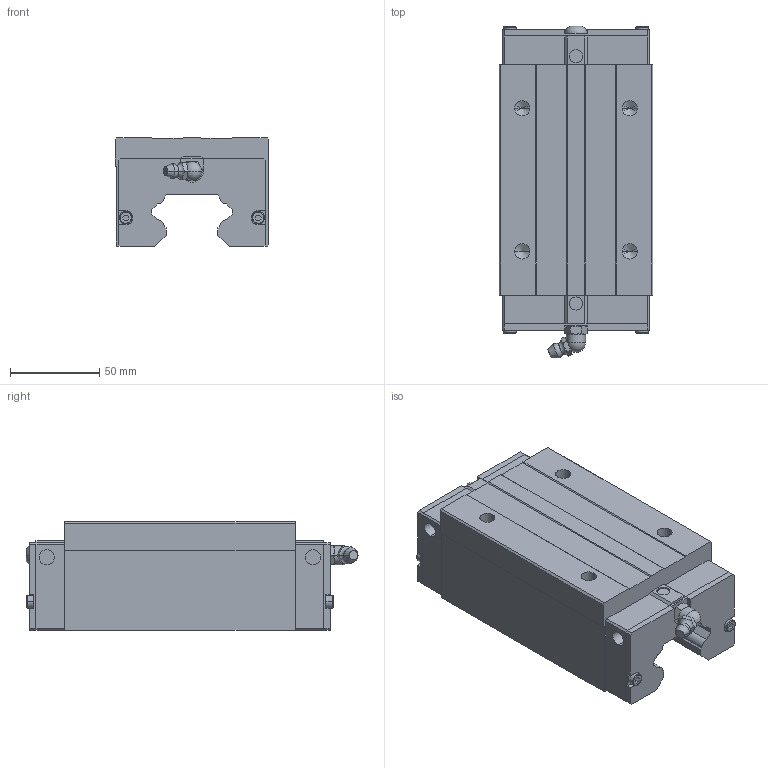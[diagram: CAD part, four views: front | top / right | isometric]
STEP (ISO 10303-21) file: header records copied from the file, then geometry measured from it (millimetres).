
FILE_DESCRIPTION(('no description'),'unknown implementation level');
FILE_NAME('QHH45HA_Z0_H_SS_12.stp',' ',('HIWIN GmbH'),('CADClick - KiM GmbH - www.kimweb.de'),'unknown preprocess','ACIS','unknown authorization');
FILE_SCHEMA(('automotive_design'));
Length unit declared in the file: millimetre
Products named in the file (1): QHH45HA Z0 H SS
Bounding box: 86 x 185.52 x 60.8 mm (x, y, z)
Volume: 642793.8 mm3; surface area: 72312.7 mm2
Topology: 1 solids, 6 shells, 295 faces, 753 edges, 475 vertices
Faces by surface type: plane 181, cylinder 60, torus 30, cone 22, sphere 2
Entity records: 17432 total; most frequent: CARTESIAN_POINT 1814, STYLED_ITEM 1514, PRESENTATION_STYLE_ASSIGNMENT 1514, COLOUR_RGB 1514, DIRECTION 1486, ORIENTED_EDGE 1486, EDGE_CURVE 743, CURVE_STYLE 743
